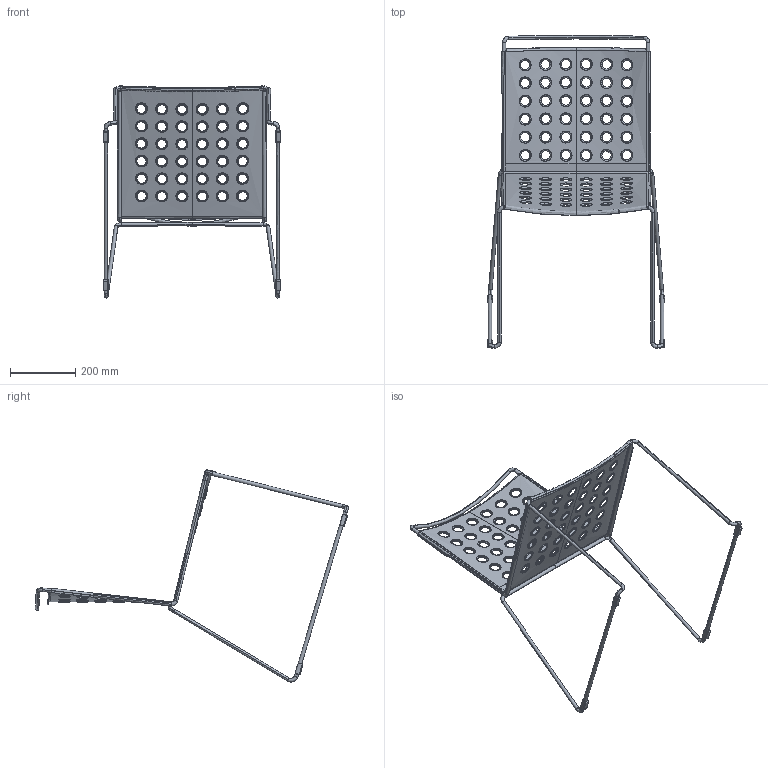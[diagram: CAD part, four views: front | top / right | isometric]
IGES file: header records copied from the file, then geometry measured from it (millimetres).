
Start section: 3D InterOp IGES (v. 2017 1.0.2), Spatial Corp. Copyright (c) 1999-2016.
Global section: file name: Sedia Busy.igs; native system: Spatial Corp.; preprocessor: 3D InterOp GENERIC/IGES 3.0; author: Noname; organization: Noname; date: 20180712.153009; units: millimetre
Bounding box: 544.59 x 960.95 x 651.28 mm (x, y, z)
Surface area: 914370.2 mm2 (no closed solid volume)
Topology: 0 solids, 0 shells, 1997 faces, 10637 edges, 10589 vertices
Faces by surface type: revolution 1035, extrusion 496, bspline 464, offset 2
